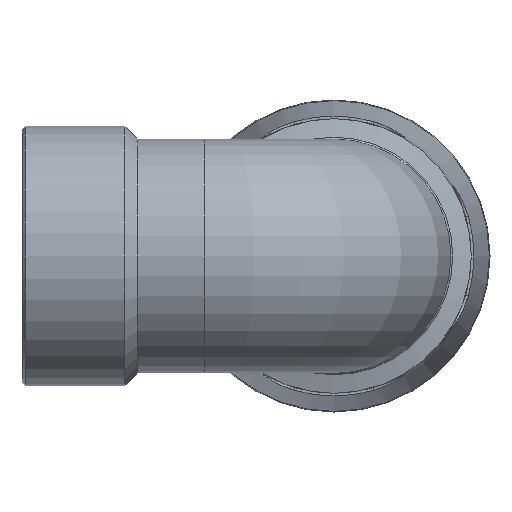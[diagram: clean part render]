
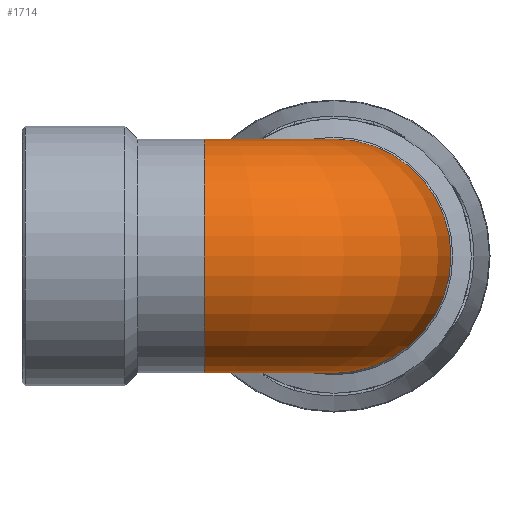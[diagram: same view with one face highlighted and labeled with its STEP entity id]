
A CAD part, left-side view. The second image highlights one B-rep face of the part: STEP entity #1714.
In plain terms, the highlighted toroidal (fillet/blend) face has major radius 29.096 mm and minor radius 26.234 mm.
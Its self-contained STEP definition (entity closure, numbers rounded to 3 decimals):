
#356=FACE_BOUND('',#509,.T.);
#384=FACE_OUTER_BOUND('',#508,.T.);
#508=EDGE_LOOP('',(#1160));
#509=EDGE_LOOP('',(#1161));
#615=CIRCLE('',#1814,26.234);
#621=CIRCLE('',#1824,26.234);
#710=VERTEX_POINT('',#2509);
#716=VERTEX_POINT('',#2525);
#869=EDGE_CURVE('',#710,#710,#615,.T.);
#875=EDGE_CURVE('',#716,#716,#621,.T.);
#1160=ORIENTED_EDGE('',*,*,#869,.F.);
#1161=ORIENTED_EDGE('',*,*,#875,.T.);
#1586=TOROIDAL_SURFACE('',#1868,29.096,26.234);
#1714=ADVANCED_FACE('',(#384,#356),#1586,.T.);
#1814=AXIS2_PLACEMENT_3D('',#2510,#2025,#2026);
#1824=AXIS2_PLACEMENT_3D('',#2526,#2045,#2046);
#1868=AXIS2_PLACEMENT_3D('',#2604,#2133,#2134);
#2025=DIRECTION('center_axis',(1.,0.,0.));
#2026=DIRECTION('ref_axis',(0.,-1.,0.));
#2045=DIRECTION('center_axis',(0.,-1.,0.));
#2046=DIRECTION('ref_axis',(-1.,0.,0.));
#2133=DIRECTION('center_axis',(0.,0.,1.));
#2134=DIRECTION('ref_axis',(1.,0.,0.));
#2509=CARTESIAN_POINT('',(29.096,26.234,0.));
#2510=CARTESIAN_POINT('Origin',(29.096,0.,0.));
#2525=CARTESIAN_POINT('',(26.234,29.096,0.));
#2526=CARTESIAN_POINT('Origin',(0.,29.096,0.));
#2604=CARTESIAN_POINT('Origin',(29.096,29.096,0.));
